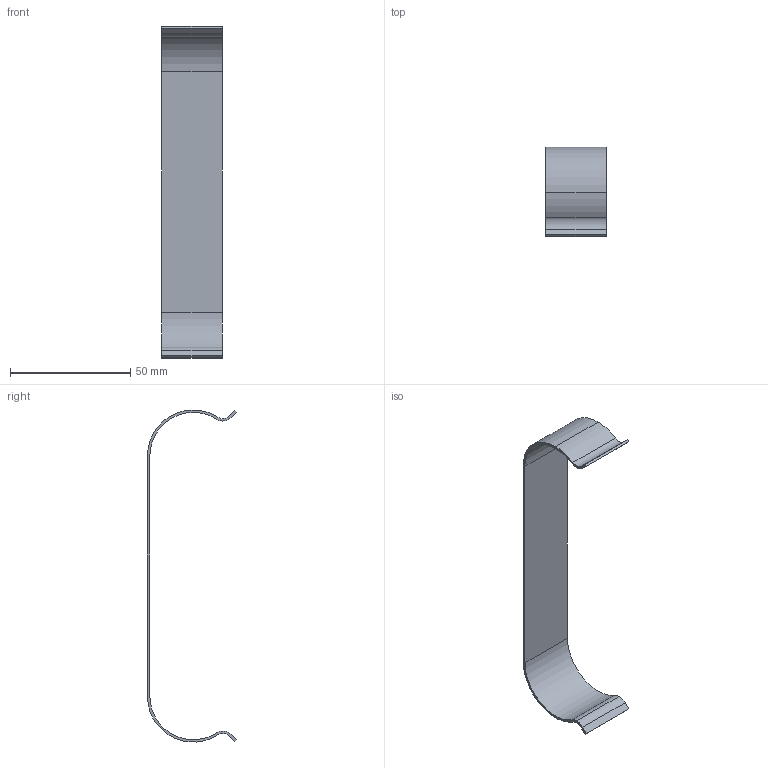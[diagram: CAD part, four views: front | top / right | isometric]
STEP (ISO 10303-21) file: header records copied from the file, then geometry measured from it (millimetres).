
FILE_DESCRIPTION (( 'STEP AP214' ), '1' );
FILE_NAME ('JB-56050.step', '2024-01-17T00:59:07', ( 'catia' ), ( 'HP Inc.' ), 'SwSTEP 2.0', 'SolidWorks 2021', '' );
FILE_SCHEMA (( 'AUTOMOTIVE_DESIGN' ));
Length unit declared in the file: millimetre
Products named in the file (1): JB-56050
Bounding box: 25 x 37 x 137.95 mm (x, y, z)
Volume: 4931.2 mm3; surface area: 10306.9 mm2
Topology: 1 solids, 1 shells, 22 faces, 60 edges, 40 vertices
Faces by surface type: cylinder 12, plane 10
Entity records: 742 total; most frequent: DIRECTION 130, CARTESIAN_POINT 123, ORIENTED_EDGE 120, EDGE_CURVE 60, AXIS2_PLACEMENT_3D 47, VERTEX_POINT 40, VECTOR 36, LINE 36
